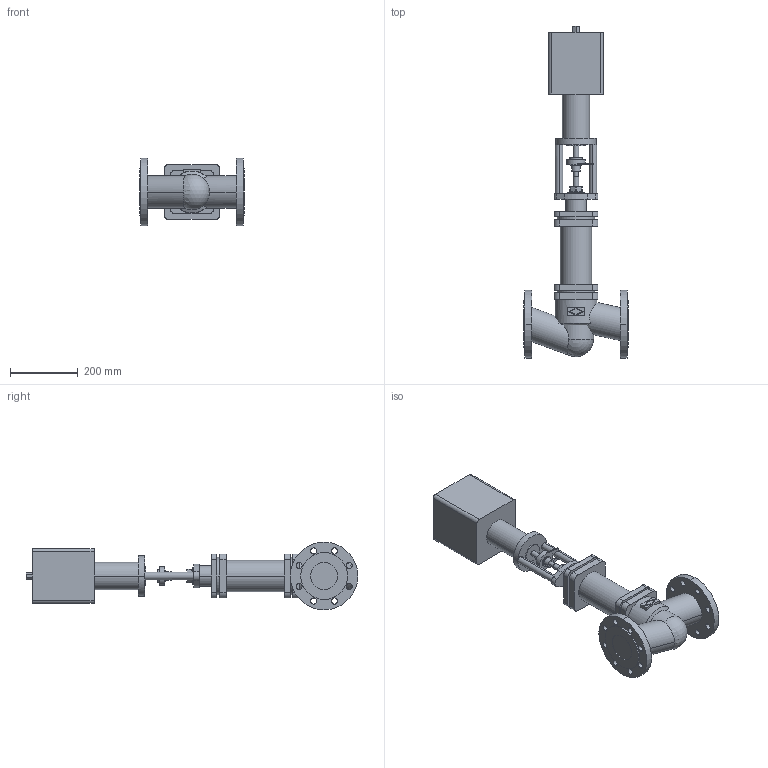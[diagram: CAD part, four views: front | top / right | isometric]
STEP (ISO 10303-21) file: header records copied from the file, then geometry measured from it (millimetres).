
FILE_DESCRIPTION( ( '' ), '1' );
FILE_NAME( 'F:/DE-SHS/TB/OR/04-Sonstiges/daten/files_3d/441-FR2.2/441-PN25-FR2_2/c000004561.stp', '2014-11-06T11:28:59', ( '' ), ( '' ), ' ', ' ', ' ' );
FILE_SCHEMA( ( 'CONFIG_CONTROL_DESIGN' ) );
Length unit declared in the file: millimetre
Products named in the file (2): 1; 2
Bounding box: 310 x 980.7 x 200 mm (x, y, z)
Volume: 12653966 mm3; surface area: 690093.3 mm2
Topology: 2 solids, 2 shells, 218 faces, 545 edges, 361 vertices
Faces by surface type: cylinder 118, plane 97, cone 2, sphere 1
Entity records: 7243 total; most frequent: CARTESIAN_POINT 1652, DIRECTION 1217, ORIENTED_EDGE 1086, EDGE_CURVE 543, AXIS2_PLACEMENT_3D 468, VERTEX_POINT 361, EDGE_LOOP 282, LINE 281
